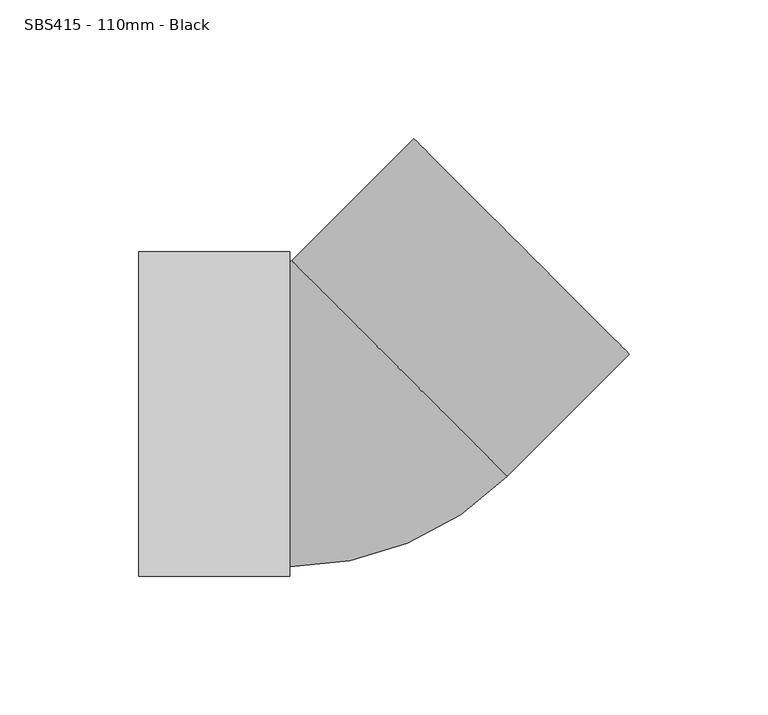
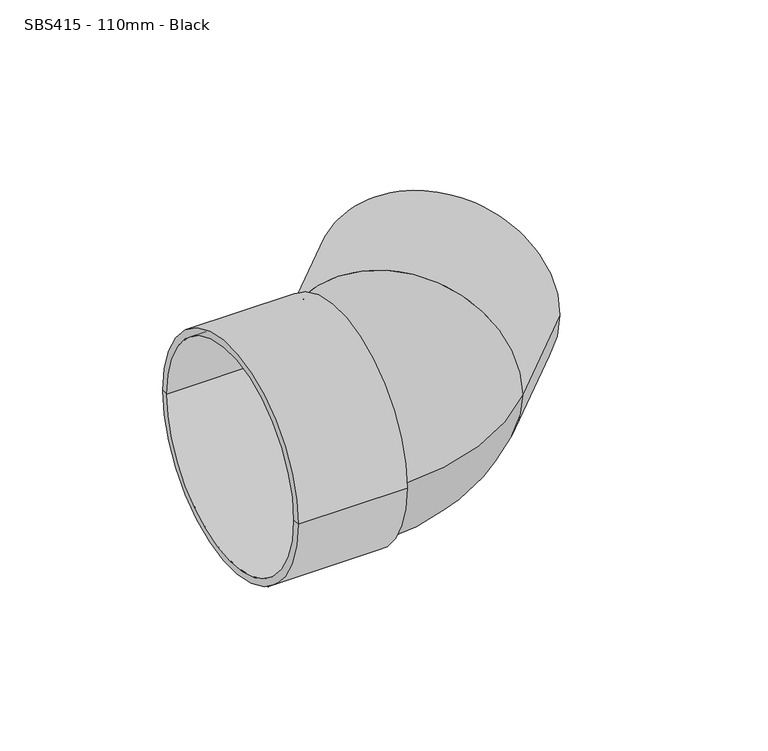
"""IFC4 building model written with IfcOpenShell, lengths in millimetres: pipe fitting geometry, MarleyPlumbingAndDrainage_PipeFitting_ShortRadiusBend45 : SBS415 - 110mm - Black."""

from ifc_helpers import new_model, si_unit, point, frame, origin, place, context, project, spatial, polyline, circle_curve, ellipse_curve, trimmed, source, transform, mapped, element, save
from ifc_brep_helpers import plane_surface, cylinder_surface, revolved_surface, advanced_brep


def sbs415_110mm_black_f26f8e69(model_context):
    return source(origin(), model_context, "Body", "AdvancedBrep", [
        advanced_brep(
        [(-37.9627476, -55.0, 0.0), (-37.9627476, 55.0, 0.0), (-37.2556408, 55.2928932, 0.0), (40.5261051, -22.4888527, 0.0), (84.5788576, 21.5638998, 0.0), (6.7971117, 99.3456457, 0.0)],
        [
            (0, 1, circle_curve(frame((-37.9627476, 0.0, 0.0), z_axis=(-1.0, 0.0, 0.0), x_axis=(0.0, 1.0, 0.0)), 55.0)),
            (1, 0, circle_curve(frame((-37.9627476, 0.0, 0.0), z_axis=(-1.0, 0.0, 0.0), x_axis=(0.0, 1.0, 0.0)), 55.0)),
            (2, 1, circle_curve(frame((-37.9627476, 56.0, 0.0), z_axis=(0.0, 0.0, -1.0), x_axis=(0.0, -1.0, 0.0)), 1.0)),
            (0, 3, circle_curve(frame((-37.9627476, 56.0, 0.0), z_axis=(0.0, 0.0, 1.0), x_axis=(0.0, -1.0, 0.0)), 111.0)),
            (3, 2, circle_curve(frame((1.6352322, 16.4020203, 0.0), z_axis=(-0.7071067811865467, -0.7071067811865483, 0.0), x_axis=(-0.7071067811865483, 0.7071067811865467, 0.0)), 55.0)),
            (2, 3, circle_curve(frame((1.6352322, 16.4020203, 0.0), z_axis=(-0.707106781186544, -0.707106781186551, 0.0), x_axis=(-0.707106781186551, 0.707106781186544, 0.0)), 55.0)),
            (4, 5, circle_curve(frame((45.6879846, 60.4547727, 0.0), z_axis=(0.7071067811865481, 0.7071067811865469, 0.0), x_axis=(-0.7071067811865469, 0.7071067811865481, 0.0)), 55.0)),
            (5, 4, circle_curve(frame((45.6879846, 60.4547727, 0.0), z_axis=(0.7071067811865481, 0.7071067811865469, 0.0), x_axis=(-0.7071067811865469, 0.7071067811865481, 0.0)), 55.0)),
            (3, 4),
            (5, 2),
        ],
        [
            plane_surface(frame((-37.9627476, 0.0, 0.0), z_axis=(-1.0, 0.0, 0.0), x_axis=(0.0, 0.0, 1.0))),
            revolved_surface(trimmed(ellipse_curve(frame((-37.9627476, 0.0, 0.0), z_axis=(-1.0, 0.0, 0.0), x_axis=(0.0, 1.0, 0.0)), 55.0, 55.0), [point((-37.9627476, -55.0, 0.0))], [point((-37.9627476, 55.0, 0.0))], True, "CARTESIAN"), (-37.9627476, 56.0, 0.0), (0.0, 0.0, 1.0)),
            revolved_surface(trimmed(ellipse_curve(frame((-37.9627476, 0.0, 0.0), z_axis=(-1.0, 0.0, 0.0), x_axis=(0.0, 1.0, 0.0)), 55.0, 55.0), [point((-37.9627476, 55.0, 0.0))], [point((-37.9627476, -55.0, 0.0))], True, "CARTESIAN"), (-37.9627476, 56.0, 0.0), (0.0, 0.0, 1.0)),
            plane_surface(frame((45.6879846, 60.4547727, 0.0), z_axis=(0.7071067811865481, 0.7071067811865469, 0.0), x_axis=(0.0, 0.0, 1.0))),
            cylinder_surface(frame((1.6352322, 16.4020203, 0.0), z_axis=(-0.7071067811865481, -0.7071067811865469, 0.0), x_axis=(-0.7071067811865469, 0.7071067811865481, 0.0)), 55.0),
        ],
        [
            (0, [[1, 2]]),
            (1, [[3, -1, 4, 5]]),
            (2, [[-4, -2, -3, 6]]),
            (3, [[7, 8]]),
            (4, [[-5, 9, -8, 10]]),
            (4, [[-6, -10, -7, -9]]),
        ],
    ),
        advanced_brep(
        [(-92.4627476, 55.0, 0.0), (-92.4627476, -55.0, 0.0), (-37.9627476, -55.0, 0.0), (-37.9627476, 55.0, 0.0), (-92.4627476, 58.5, 0.0), (-92.4627476, -58.5, 0.0), (-37.9627476, 58.5, 0.0), (-37.9627476, -58.5, 0.0)],
        [
            (0, 1, circle_curve(frame((-92.4627476, 0.0, 0.0), z_axis=(-1.0, 0.0, 0.0), x_axis=(0.0, -1.0, 0.0)), 55.0)),
            (1, 2),
            (2, 3, circle_curve(frame((-37.9627476, 0.0, 0.0), z_axis=(1.0, 0.0, 0.0), x_axis=(0.0, -1.0, 0.0)), 55.0)),
            (3, 0),
            (1, 0, circle_curve(frame((-92.4627476, 0.0, 0.0), z_axis=(-1.0, 0.0, 0.0), x_axis=(0.0, -1.0, 0.0)), 55.0)),
            (3, 2, circle_curve(frame((-37.9627476, 0.0, 0.0), z_axis=(1.0, 0.0, 0.0), x_axis=(0.0, -1.0, 0.0)), 55.0)),
            (4, 5, circle_curve(frame((-92.4627476, 0.0, 0.0), z_axis=(-1.0, 0.0, 0.0), x_axis=(0.0, -1.0, 0.0)), 58.5)),
            (5, 1),
            (0, 4),
            (5, 4, circle_curve(frame((-92.4627476, 0.0, 0.0), z_axis=(-1.0, 0.0, 0.0), x_axis=(0.0, -1.0, 0.0)), 58.5)),
            (6, 7, circle_curve(frame((-37.9627476, 0.0, 0.0), z_axis=(-1.0, 0.0, 0.0), x_axis=(0.0, -1.0, 0.0)), 58.5)),
            (7, 5),
            (4, 6),
            (7, 6, circle_curve(frame((-37.9627476, 0.0, 0.0), z_axis=(-1.0, 0.0, 0.0), x_axis=(0.0, -1.0, 0.0)), 58.5)),
            (2, 7),
            (6, 3),
        ],
        [
            revolved_surface(polyline([(-37.9627476, -55.0, 0.0), (-92.4627476, -55.0, 0.0)]), (-107.4627476, 0.0, 0.0), (1.0, 0.0, 0.0)),
            plane_surface(frame((-92.4627476, 0.0, 0.0), z_axis=(-1.0, 0.0, 0.0), x_axis=(0.0, -1.0, 0.0))),
            cylinder_surface(frame((-107.4627476, 0.0, 0.0), z_axis=(1.0, 0.0, 0.0), x_axis=(0.0, -1.0, 0.0)), 58.5),
            plane_surface(frame((-37.9627476, 0.0, 0.0), z_axis=(1.0, 0.0, 0.0), x_axis=(0.0, -1.0, 0.0))),
        ],
        [
            (0, [[1, 2, 3, 4]]),
            (0, [[5, -4, 6, -2]]),
            (1, [[7, 8, -1, 9]]),
            (1, [[10, -9, -5, -8]]),
            (2, [[11, 12, -7, 13]]),
            (2, [[14, -13, -10, -12]]),
            (3, [[-3, 15, -11, 16]]),
            (3, [[-6, -16, -14, -15]]),
        ],
    ),
    ])


if __name__ == "__main__":
    model = new_model("IFC4")
    model_context = context("Model", 3, world=origin())
    ifc_project = project(units=[si_unit("LENGTHUNIT", "METRE", prefix="MILLI")], contexts=[model_context])
    site = spatial("IfcSite", under=ifc_project)
    building = spatial("IfcBuilding", under=site)
    placement = place(None, origin())
    sbs415_110mm_black_shape = sbs415_110mm_black_f26f8e69(model_context)
    element("IfcPipeFitting", 1, ObjectType="MarleyPlumbingAndDrainage_PipeFitting_ShortRadiusBend45 : SBS415 - 110mm - Black", at=placement, inside=building, context=model_context, shape_type="MappedRepresentation", body=[
        mapped(sbs415_110mm_black_shape, transform((0.0, 0.0, 0.0), x_axis=(1.0, 0.0, 0.0), y_axis=(0.0, 1.0, 0.0), z_axis=(0.0, 0.0, 1.0))),
    ])
    save(model, "model.ifc")
